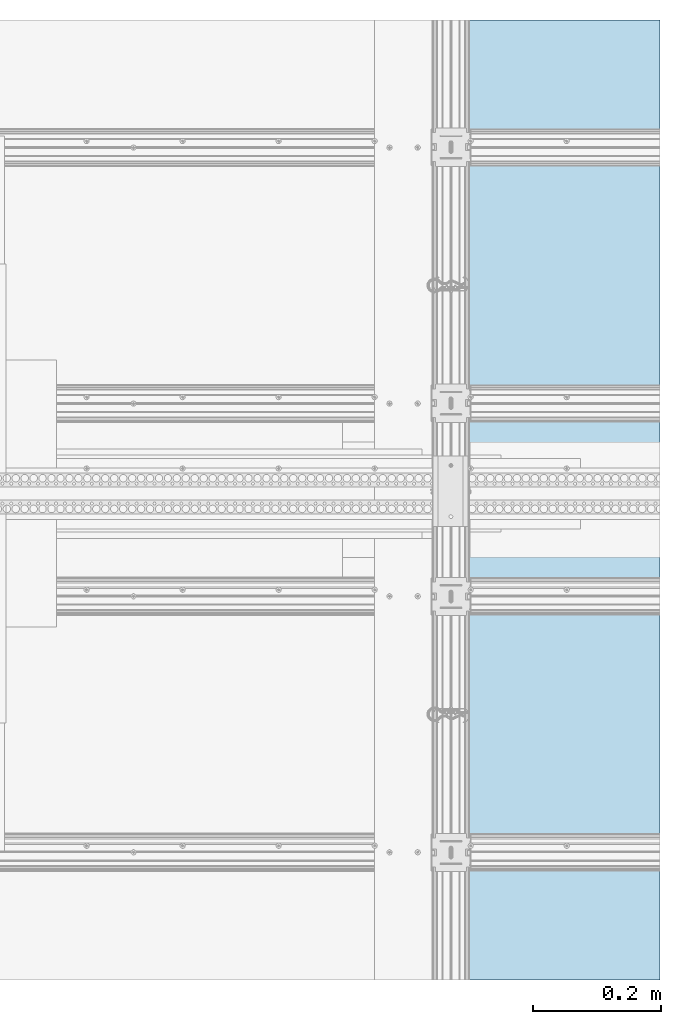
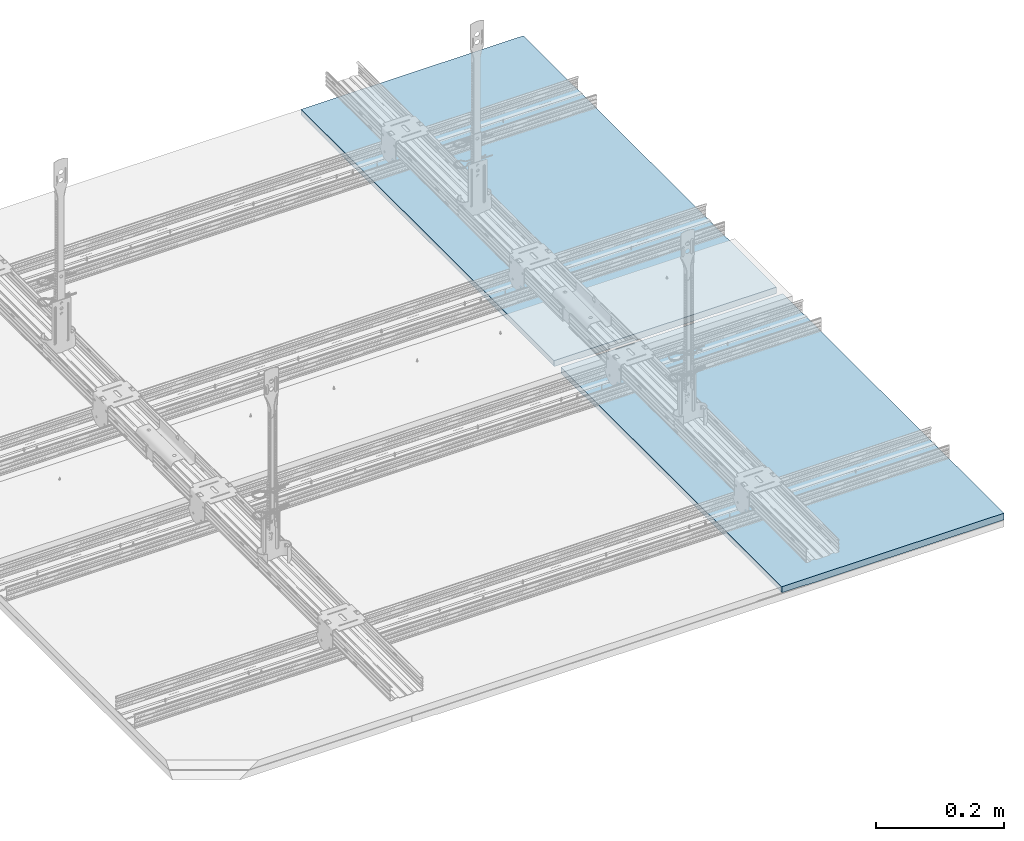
# One storey, part 7 of 73: 2 slabs.
"""IFC2X3 building model written with IfcOpenShell, lengths in millimetres."""

from ifc_helpers import new_model, entity, si_unit, converted_unit, direction, frame, origin, origin_with_axes, place, context, project, spatial, faceted_brep, element, save


model = new_model("IFC2X3")

# Units and contexts
model_context = context("Model", 3, precision=1e-05, world=origin(), true_north=direction((0.0, 1.0, 0.0)))
ifc_project = project(units=[si_unit("LENGTHUNIT", "METRE", prefix="MILLI"), si_unit("AREAUNIT", "SQUARE_METRE"), si_unit("VOLUMEUNIT", "CUBIC_METRE"), converted_unit("PLANEANGLEUNIT", "DEGREE", entity("IfcPlaneAngleMeasure", 0.01745), si_unit("PLANEANGLEUNIT", "RADIAN"), dimensions=[0, 0, 0, 0, 0, 0, 0]), si_unit("SOLIDANGLEUNIT", "STERADIAN"), si_unit("MASSUNIT", "GRAM"), si_unit("TIMEUNIT", "SECOND"), si_unit("THERMODYNAMICTEMPERATUREUNIT", "DEGREE_CELSIUS"), si_unit("LUMINOUSINTENSITYUNIT", "LUMEN")], contexts=[model_context])

# Site, building, storey
site_placement = place(None, origin_with_axes())
site = spatial("IfcSite", under=ifc_project, at=site_placement, Name="Default Site", CompositionType="ELEMENT")
building_placement = place(site_placement, origin_with_axes())
building = spatial("IfcBuilding", under=site, at=building_placement, Name="Default Building", CompositionType="ELEMENT")
storey_placement = place(building_placement, origin_with_axes())
storey = spatial("IfcBuildingStorey", under=building, at=storey_placement, Name="Default Building Storey", CompositionType="ELEMENT", Elevation=0.0)

# Slabs
slab_1_placement = place(storey_placement, frame((3192.626404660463, 340.2088794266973, 993.785217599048), z_axis=(1.121038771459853e-43, -1.0, 3.330669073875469e-16), x_axis=(1.0, 2.12807555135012e-28, 6.389333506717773e-13)))
element("IfcSlab", 1, at=slab_1_placement, inside=storey, Name="Płyta gipsowo-kartonowa RIGIPS PRO (4PRO™)", context=model_context, shape_type="Brep", body=[
    faceted_brep([(400.4142135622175, -12.49999999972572, -478.1320433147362), (400.4142135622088, 2.465327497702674e-10, -478.1320433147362), (400.4142135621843, 2.62053845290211e-10, -1167.762426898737), (400.4142135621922, -12.4999999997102, -1167.762426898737), (44.9999999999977, -12.50000000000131, -478.1320433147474), (40.9999999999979, -11.50000000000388, -478.1320433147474), (0.9999999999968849, -11.50000000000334, -478.1320433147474), (0.7411809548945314, -11.46592582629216, -478.1320433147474), (0.4999999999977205, -11.36602540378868, -478.1320433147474), (0.29289321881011, -11.20710678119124, -478.1320433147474), (0.1339745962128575, -11.00000000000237, -478.1320433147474), (0.03407417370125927, -10.75881904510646, -478.1320433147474), (-3.609557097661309e-13, -10.50000000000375, -478.1320433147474), (0.0, -3.609557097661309e-13, -478.1320433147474), (44.9999999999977, -12.49999999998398, -1167.762426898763), (40.9999999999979, -11.49999999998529, -1167.762426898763), (0.9999999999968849, -11.49999999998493, -1167.762426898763), (0.7411809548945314, -11.46592582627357, -1167.762426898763), (0.4999999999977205, -11.36602540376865, -1167.762426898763), (0.29289321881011, -11.20710678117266, -1167.762426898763), (0.1339745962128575, -10.99999999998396, -1167.762426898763), (0.03407417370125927, -10.75881904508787, -1167.762426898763), (-3.609557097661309e-13, -10.49999999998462, -1167.762426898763), (0.0, 1.876969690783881e-11, -1167.762426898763)], [[[0, 1, 2, 3]], [[0, 4, 5, 6, 7, 8, 9, 10, 11, 12, 13, 1]], [[3, 14, 4, 0]], [[5, 4, 14, 15]], [[6, 5, 15, 16]], [[7, 6, 16, 17]], [[8, 7, 17, 18]], [[9, 8, 18, 19]], [[10, 9, 19, 20]], [[11, 10, 20, 21]], [[12, 11, 21, 22]], [[13, 12, 22, 23]], [[2, 1, 13, 23]], [[14, 3, 2, 23, 22, 21, 20, 19, 18, 17, 16, 15]]]),
])
slab_2_placement = place(storey_placement, frame((3192.626404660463, 2696.307050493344, 993.785217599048), z_axis=(8.968310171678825e-44, 1.0, 3.330669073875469e-16), x_axis=(1.0, -2.12807555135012e-28, 6.389333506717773e-13)))
element("IfcSlab", 2, at=slab_2_placement, inside=storey, Name="Płyta gipsowo-kartonowa RIGIPS PRO (4PRO™)", context=model_context, shape_type="Brep", body=[
    faceted_brep([(400.4142135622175, 12.49999999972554, -378.1320433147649), (400.4142135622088, -2.467132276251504e-10, -378.1320433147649), (400.4142135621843, -2.62053845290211e-10, -1167.762426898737), (400.4142135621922, 12.4999999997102, -1167.762426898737), (44.9999999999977, 12.50000000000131, -378.1320433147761), (40.9999999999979, 11.50000000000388, -378.1320433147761), (0.9999999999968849, 11.50000000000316, -378.1320433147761), (0.7411809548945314, 11.46592582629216, -378.1320433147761), (0.4999999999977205, 11.36602540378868, -378.1320433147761), (0.29289321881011, 11.20710678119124, -378.1320433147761), (0.1339745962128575, 11.00000000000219, -378.1320433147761), (0.03407417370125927, 10.75881904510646, -378.1320433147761), (-3.609557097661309e-13, 10.50000000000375, -378.1320433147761), (0.0, 3.609557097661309e-13, -378.1320433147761), (44.9999999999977, 12.49999999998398, -1167.762426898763), (40.9999999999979, 11.49999999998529, -1167.762426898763), (0.9999999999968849, 11.49999999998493, -1167.762426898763), (0.7411809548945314, 11.46592582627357, -1167.762426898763), (0.4999999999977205, 11.36602540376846, -1167.762426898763), (0.29289321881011, 11.20710678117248, -1167.762426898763), (0.1339745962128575, 10.99999999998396, -1167.762426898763), (0.03407417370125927, 10.75881904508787, -1167.762426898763), (-3.609557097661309e-13, 10.49999999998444, -1167.762426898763), (0.0, -1.895017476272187e-11, -1167.762426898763)], [[[0, 1, 2, 3]], [[0, 4, 5, 6, 7, 8, 9, 10, 11, 12, 13, 1]], [[3, 14, 4, 0]], [[5, 4, 14, 15]], [[6, 5, 15, 16]], [[7, 6, 16, 17]], [[8, 7, 17, 18]], [[9, 8, 18, 19]], [[10, 9, 19, 20]], [[11, 10, 20, 21]], [[12, 11, 21, 22]], [[13, 12, 22, 23]], [[2, 1, 13, 23]], [[14, 3, 2, 23, 22, 21, 20, 19, 18, 17, 16, 15]]]),
])

save(model, "model.ifc")
